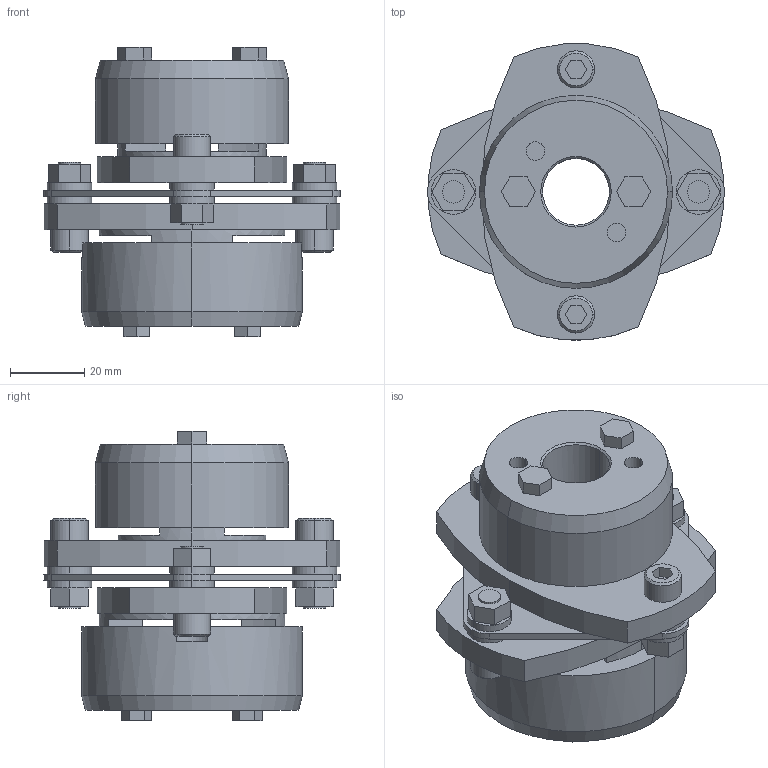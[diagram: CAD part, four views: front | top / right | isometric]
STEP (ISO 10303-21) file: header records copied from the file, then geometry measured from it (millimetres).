
FILE_DESCRIPTION((''),'2;1');
FILE_NAME('LCS-80T7-18×30.stp','2011-09-12T15:05:45',(''),(''),'AutoCAD STEP 2000i','AutoCAD 2000i',', , ');
FILE_SCHEMA(('CONFIG_CONTROL_DESIGN'));
Length unit declared in the file: millimetre
Products named in the file (10): LCS-80T7-17×30; 忣兜1; LC80T7-T030; LC80T7-T028; LC80T7-T024; LC80T7-T022; LC80T7-T019; LC80T7-T017-1; LC80T7-T017; LCS80-ITA
Assembly tree (9 placements, depth 2):
  LCS-80T7-17×30
    忣兜1
    LC80T7-T030
    LC80T7-T028
    LC80T7-T024
    LC80T7-T022
    LC80T7-T019
    LC80T7-T017-1
    LC80T7-T017
    LCS80-ITA
Bounding box: 80 x 79.95 x 78.05 mm (x, y, z)
Volume: 144436 mm3; surface area: 42368.8 mm2
Topology: 1 solids, 1 shells, 236 faces, 580 edges, 380 vertices
Faces by surface type: plane 134, cylinder 82, cone 20
Entity records: 7245 total; most frequent: DIRECTION 1276, CARTESIAN_POINT 1206, ORIENTED_EDGE 1160, EDGE_CURVE 580, AXIS2_PLACEMENT_3D 450, VERTEX_POINT 380, VECTOR 376, LINE 376
